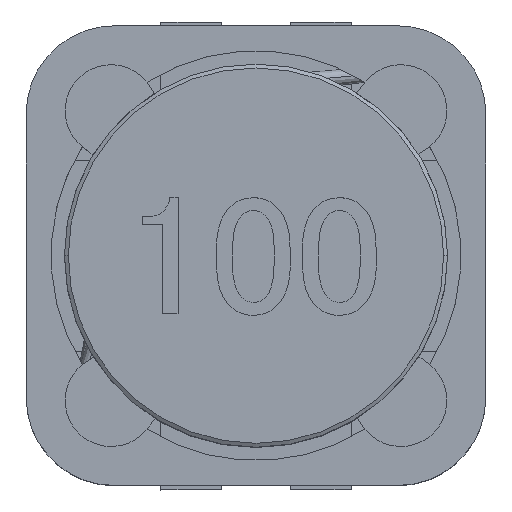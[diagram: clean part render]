
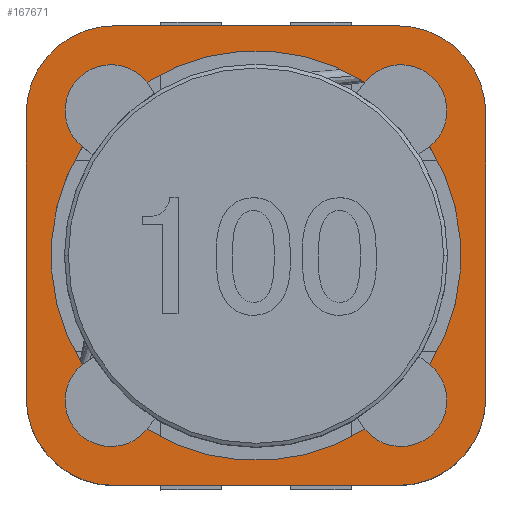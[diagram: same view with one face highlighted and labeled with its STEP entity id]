
A CAD part, top view. The second image highlights one B-rep face of the part: STEP entity #167671.
In plain terms, the highlighted planar face has unit normal (0, 0, 1).
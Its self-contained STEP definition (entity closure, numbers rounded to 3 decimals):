
#166382=CARTESIAN_POINT('',(3.7,3.7,5.55));
#166383=DIRECTION('',(0.,0.,-1.));
#166384=DIRECTION('',(0.,1.,0.));
#166385=AXIS2_PLACEMENT_3D('',#166382,#166383,#166384);
#166387=CARTESIAN_POINT('',(3.7,-3.7,5.55));
#166388=DIRECTION('',(0.,0.,-1.));
#166389=DIRECTION('',(1.,0.,0.));
#166390=AXIS2_PLACEMENT_3D('',#166387,#166388,#166389);
#166392=CARTESIAN_POINT('',(-3.7,-3.7,5.55));
#166393=DIRECTION('',(0.,0.,-1.));
#166394=DIRECTION('',(0.,-1.,0.));
#166395=AXIS2_PLACEMENT_3D('',#166392,#166393,#166394);
#166397=CARTESIAN_POINT('',(-3.7,3.7,5.55));
#166398=DIRECTION('',(0.,0.,-1.));
#166399=DIRECTION('',(-1.,0.,0.));
#166400=AXIS2_PLACEMENT_3D('',#166397,#166398,#166399);
#166402=CARTESIAN_POINT('',(-3.783,-3.783,5.55));
#166403=DIRECTION('',(0.,0.,1.));
#166404=DIRECTION('',(-0.623,0.782,0.));
#166405=AXIS2_PLACEMENT_3D('',#166402,#166403,#166404);
#166407=CARTESIAN_POINT('',(0.,0.,5.55));
#166408=DIRECTION('',(0.,0.,1.));
#166409=DIRECTION('',(-0.532,-0.847,0.));
#166410=AXIS2_PLACEMENT_3D('',#166407,#166408,#166409);
#166412=CARTESIAN_POINT('',(3.783,-3.783,5.55));
#166413=DIRECTION('',(0.,0.,1.));
#166414=DIRECTION('',(-0.782,-0.623,0.));
#166415=AXIS2_PLACEMENT_3D('',#166412,#166413,#166414);
#166417=CARTESIAN_POINT('',(0.,0.,5.55));
#166418=DIRECTION('',(0.,0.,1.));
#166419=DIRECTION('',(0.847,-0.532,0.));
#166420=AXIS2_PLACEMENT_3D('',#166417,#166418,#166419);
#166422=CARTESIAN_POINT('',(3.783,3.783,5.55));
#166423=DIRECTION('',(0.,0.,1.));
#166424=DIRECTION('',(0.623,-0.782,0.));
#166425=AXIS2_PLACEMENT_3D('',#166422,#166423,#166424);
#166427=CARTESIAN_POINT('',(0.,0.,5.55));
#166428=DIRECTION('',(0.,0.,1.));
#166429=DIRECTION('',(0.532,0.847,0.));
#166430=AXIS2_PLACEMENT_3D('',#166427,#166428,#166429);
#166432=CARTESIAN_POINT('',(-3.783,3.783,5.55));
#166433=DIRECTION('',(0.,0.,1.));
#166434=DIRECTION('',(0.782,0.623,0.));
#166435=AXIS2_PLACEMENT_3D('',#166432,#166433,#166434);
#166437=CARTESIAN_POINT('',(0.,0.,5.55));
#166438=DIRECTION('',(0.,0.,1.));
#166439=DIRECTION('',(-0.847,0.532,0.));
#166440=AXIS2_PLACEMENT_3D('',#166437,#166438,#166439);
#166442=DIRECTION('',(-1.,0.,0.));
#166443=VECTOR('',#166442,7.4);
#166444=CARTESIAN_POINT('',(3.7,6.,5.55));
#166445=LINE('',#166444,#166443);
#166482=DIRECTION('',(0.,-1.,0.));
#166483=VECTOR('',#166482,7.4);
#166484=CARTESIAN_POINT('',(-6.,3.7,5.55));
#166485=LINE('',#166484,#166483);
#166522=DIRECTION('',(1.,0.,0.));
#166523=VECTOR('',#166522,7.4);
#166524=CARTESIAN_POINT('',(-3.7,-6.,5.55));
#166525=LINE('',#166524,#166523);
#166562=DIRECTION('',(0.,1.,0.));
#166563=VECTOR('',#166562,7.4);
#166564=CARTESIAN_POINT('',(6.,-3.7,5.55));
#166565=LINE('',#166564,#166563);
#167350=CARTESIAN_POINT('',(3.7,6.,5.55));
#167351=CARTESIAN_POINT('',(-3.7,6.,5.55));
#167352=VERTEX_POINT('',#167350);
#167353=VERTEX_POINT('',#167351);
#167354=CARTESIAN_POINT('',(6.,3.7,5.55));
#167355=VERTEX_POINT('',#167354);
#167356=CARTESIAN_POINT('',(6.,-3.7,5.55));
#167357=VERTEX_POINT('',#167356);
#167358=CARTESIAN_POINT('',(3.7,-6.,5.55));
#167359=VERTEX_POINT('',#167358);
#167360=CARTESIAN_POINT('',(-3.7,-6.,5.55));
#167361=VERTEX_POINT('',#167360);
#167362=CARTESIAN_POINT('',(-6.,-3.7,5.55));
#167363=VERTEX_POINT('',#167362);
#167364=CARTESIAN_POINT('',(-6.,3.7,5.55));
#167365=VERTEX_POINT('',#167364);
#167366=CARTESIAN_POINT('',(-4.531,-2.845,5.55));
#167367=CARTESIAN_POINT('',(-2.845,-4.531,5.55));
#167368=VERTEX_POINT('',#167366);
#167369=VERTEX_POINT('',#167367);
#167370=CARTESIAN_POINT('',(2.845,-4.531,5.55));
#167371=VERTEX_POINT('',#167370);
#167372=CARTESIAN_POINT('',(4.531,-2.845,5.55));
#167373=VERTEX_POINT('',#167372);
#167374=CARTESIAN_POINT('',(4.531,2.845,5.55));
#167375=VERTEX_POINT('',#167374);
#167376=CARTESIAN_POINT('',(2.845,4.531,5.55));
#167377=VERTEX_POINT('',#167376);
#167378=CARTESIAN_POINT('',(-2.845,4.531,5.55));
#167379=VERTEX_POINT('',#167378);
#167380=CARTESIAN_POINT('',(-4.531,2.845,5.55));
#167381=VERTEX_POINT('',#167380);
#167630=CARTESIAN_POINT('',(0.,0.,5.55));
#167631=DIRECTION('',(0.,0.,1.));
#167632=DIRECTION('',(1.,0.,0.));
#167633=AXIS2_PLACEMENT_3D('',#167630,#167631,#167632);
#167634=PLANE('',#167633);
#167636=ORIENTED_EDGE('',*,*,#167635,.F.);
#167638=ORIENTED_EDGE('',*,*,#167637,.T.);
#167640=ORIENTED_EDGE('',*,*,#167639,.F.);
#167642=ORIENTED_EDGE('',*,*,#167641,.T.);
#167644=ORIENTED_EDGE('',*,*,#167643,.F.);
#167646=ORIENTED_EDGE('',*,*,#167645,.T.);
#167648=ORIENTED_EDGE('',*,*,#167647,.F.);
#167650=ORIENTED_EDGE('',*,*,#167649,.T.);
#167651=EDGE_LOOP('',(#167636,#167638,#167640,#167642,#167644,#167646,#167648,
#167650));
#167652=FACE_OUTER_BOUND('',#167651,.F.);
#167654=ORIENTED_EDGE('',*,*,#167653,.T.);
#167656=ORIENTED_EDGE('',*,*,#167655,.T.);
#167658=ORIENTED_EDGE('',*,*,#167657,.T.);
#167660=ORIENTED_EDGE('',*,*,#167659,.T.);
#167662=ORIENTED_EDGE('',*,*,#167661,.T.);
#167664=ORIENTED_EDGE('',*,*,#167663,.T.);
#167666=ORIENTED_EDGE('',*,*,#167665,.T.);
#167668=ORIENTED_EDGE('',*,*,#167667,.T.);
#167669=EDGE_LOOP('',(#167654,#167656,#167658,#167660,#167662,#167664,#167666,
#167668));
#167670=FACE_BOUND('',#167669,.F.);
#167671=ADVANCED_FACE('',(#167652,#167670),#167634,.T.);
#166386=CIRCLE('',#166385,2.3);
#166391=CIRCLE('',#166390,2.3);
#166396=CIRCLE('',#166395,2.3);
#166401=CIRCLE('',#166400,2.3);
#166406=CIRCLE('',#166405,1.2);
#166411=CIRCLE('',#166410,5.35);
#166416=CIRCLE('',#166415,1.2);
#166421=CIRCLE('',#166420,5.35);
#166426=CIRCLE('',#166425,1.2);
#166431=CIRCLE('',#166430,5.35);
#166436=CIRCLE('',#166435,1.2);
#166441=CIRCLE('',#166440,5.35);
#167635=EDGE_CURVE('',#167352,#167353,#166445,.T.);
#167637=EDGE_CURVE('',#167352,#167355,#166386,.T.);
#167639=EDGE_CURVE('',#167357,#167355,#166565,.T.);
#167641=EDGE_CURVE('',#167357,#167359,#166391,.T.);
#167643=EDGE_CURVE('',#167361,#167359,#166525,.T.);
#167645=EDGE_CURVE('',#167361,#167363,#166396,.T.);
#167647=EDGE_CURVE('',#167365,#167363,#166485,.T.);
#167649=EDGE_CURVE('',#167365,#167353,#166401,.T.);
#167653=EDGE_CURVE('',#167368,#167369,#166406,.T.);
#167655=EDGE_CURVE('',#167369,#167371,#166411,.T.);
#167657=EDGE_CURVE('',#167371,#167373,#166416,.T.);
#167659=EDGE_CURVE('',#167373,#167375,#166421,.T.);
#167661=EDGE_CURVE('',#167375,#167377,#166426,.T.);
#167663=EDGE_CURVE('',#167377,#167379,#166431,.T.);
#167665=EDGE_CURVE('',#167379,#167381,#166436,.T.);
#167667=EDGE_CURVE('',#167381,#167368,#166441,.T.);
